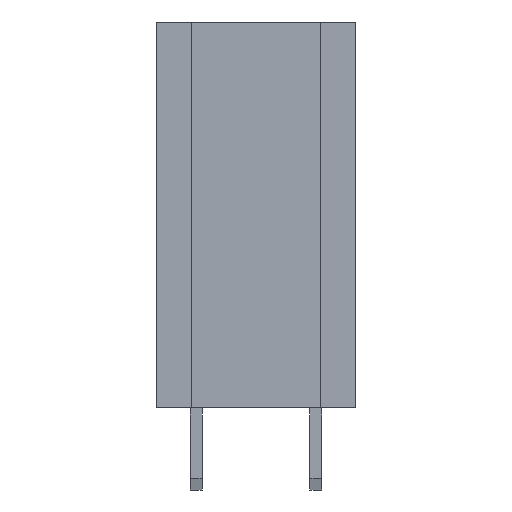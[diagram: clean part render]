
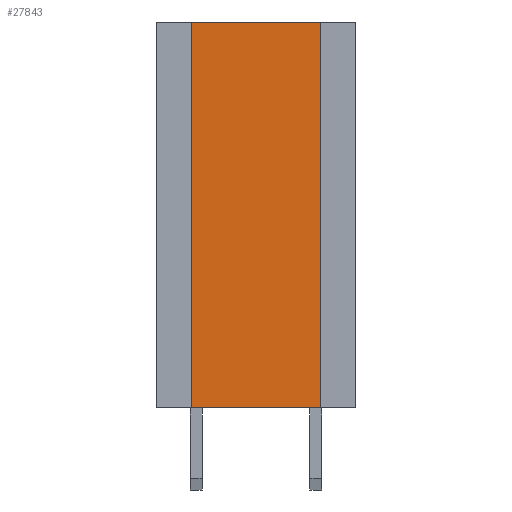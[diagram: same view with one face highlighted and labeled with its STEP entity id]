
A CAD part, left-side view. The second image highlights one B-rep face of the part: STEP entity #27843.
In plain terms, the highlighted planar face has unit normal (-1, 0, 0).
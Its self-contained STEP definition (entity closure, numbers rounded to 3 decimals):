
#2844 = LINE ( 'NONE', #2845, #4344 ) ;
#2845 = CARTESIAN_POINT ( 'NONE',  ( -46.327, 5.321, 8.2 ) ) ;
#2846 = DIRECTION ( 'NONE',  ( 0., 0., 1. ) ) ;
#2973 = LINE ( 'NONE', #2986, #4452 ) ;
#2986 = CARTESIAN_POINT ( 'NONE',  ( -46.327, 6.821, -8.2 ) ) ;
#2988 = DIRECTION ( 'NONE',  ( 0., 1., 0. ) ) ;
#4344 = VECTOR ( 'NONE', #2846, 1000. ) ;
#4452 = VECTOR ( 'NONE', #2988, 1000. ) ;
#6588 = EDGE_CURVE ( 'NONE', #54065, #54462, #2844, .T. ) ;
#6635 = EDGE_CURVE ( 'NONE', #54460, #54065, #2973, .T. ) ;
#14765 = VECTOR ( 'NONE', #22748, 1000. ) ;
#14769 = VECTOR ( 'NONE', #22752, 1000. ) ;
#16231 = AXIS2_PLACEMENT_3D ( 'NONE', #16992, #16998, #16999 ) ;
#16992 = CARTESIAN_POINT ( 'NONE',  ( -46.327, 6.821, 8.2 ) ) ;
#16995 = FACE_OUTER_BOUND ( 'NONE', #36018, .T. ) ;
#16996 = PLANE ( 'NONE',  #16231 ) ;
#16998 = DIRECTION ( 'NONE',  ( 1., 0., 0. ) ) ;
#16999 = DIRECTION ( 'NONE',  ( 0., 1., 0. ) ) ;
#22734 = LINE ( 'NONE', #22735, #14765 ) ;
#22735 = CARTESIAN_POINT ( 'NONE',  ( -46.327, -1.679, 8.2 ) ) ;
#22748 = DIRECTION ( 'NONE',  ( 0., -1., 0. ) ) ;
#22749 = LINE ( 'NONE', #22751, #14769 ) ;
#22751 = CARTESIAN_POINT ( 'NONE',  ( -46.327, -0.179, -8.8 ) ) ;
#22752 = DIRECTION ( 'NONE',  ( 0., 0., 1. ) ) ;
#23783 = CARTESIAN_POINT ( 'NONE',  ( -46.327, -0.179, 8.2 ) ) ;
#23806 = CARTESIAN_POINT ( 'NONE',  ( -46.327, 5.321, -8.2 ) ) ;
#24200 = CARTESIAN_POINT ( 'NONE',  ( -46.327, -0.179, -8.2 ) ) ;
#24202 = CARTESIAN_POINT ( 'NONE',  ( -46.327, 5.321, 8.2 ) ) ;
#27843 = ADVANCED_FACE ( 'NONE', ( #16995 ), #16996, .F. ) ;
#31536 = ORIENTED_EDGE ( 'NONE', *, *, #49076, .F. ) ;
#31538 = ORIENTED_EDGE ( 'NONE', *, *, #6588, .F. ) ;
#31540 = ORIENTED_EDGE ( 'NONE', *, *, #6635, .F. ) ;
#31542 = ORIENTED_EDGE ( 'NONE', *, *, #49077, .T. ) ;
#36018 = EDGE_LOOP ( 'NONE', ( #31536, #31538, #31540, #31542 ) ) ;
#49076 = EDGE_CURVE ( 'NONE', #54462, #54038, #22734, .T. ) ;
#49077 = EDGE_CURVE ( 'NONE', #54460, #54038, #22749, .T. ) ;
#54038 = VERTEX_POINT ( 'NONE', #23783 ) ;
#54065 = VERTEX_POINT ( 'NONE', #23806 ) ;
#54460 = VERTEX_POINT ( 'NONE', #24200 ) ;
#54462 = VERTEX_POINT ( 'NONE', #24202 ) ;
